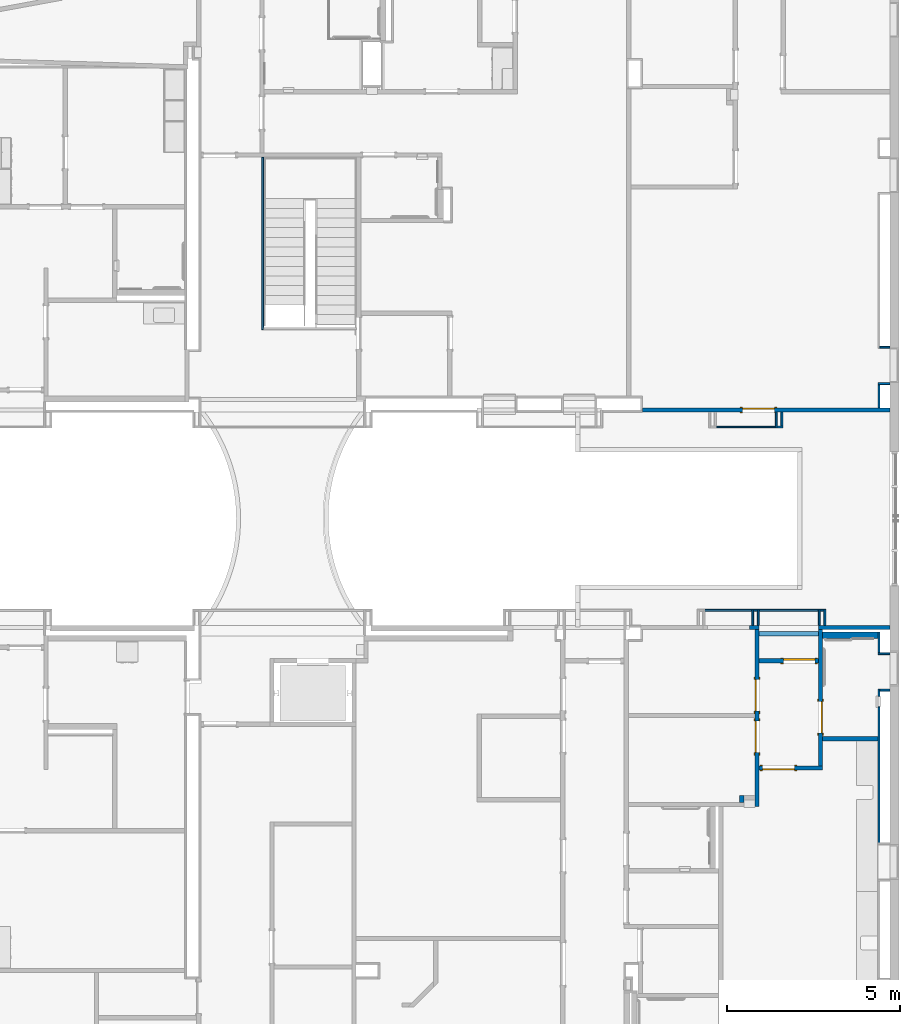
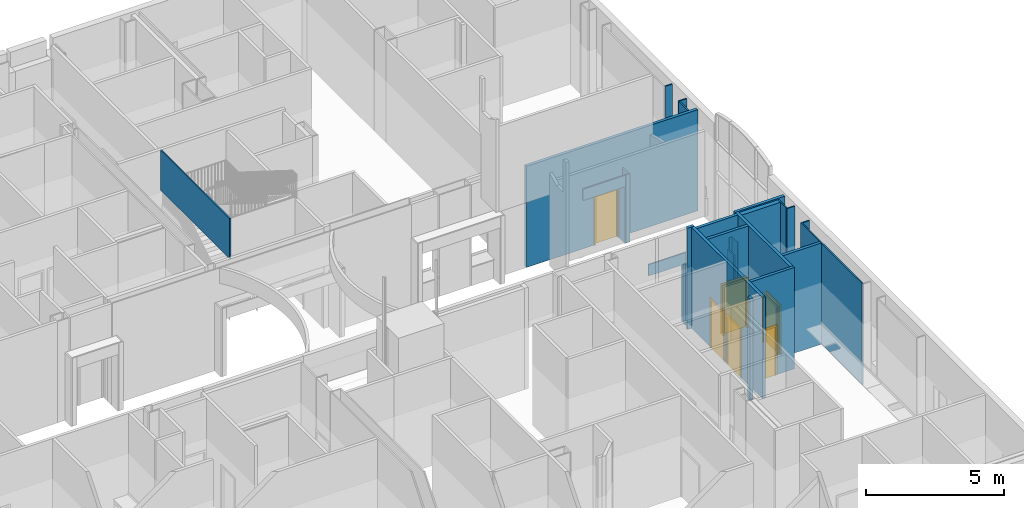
# One storey, part 38 of 82: 30 walls, 6 doors, 7 openings.
"""IFC2X3 building model written with IfcOpenShell, lengths in metres."""

from ifc_helpers import new_model, entity, si_unit, converted_unit, frame, frame_2d, origin, origin_2d_with_axis, place, context, project, spatial, polyline, rectangle, outline, extrude, source, transform, mapped, material, layer, layer_set, layer_usage, type_object, type_shapes, element, fill, save


model = new_model("IFC2X3")

# Units and contexts
model_context = context("Model", 3, precision=1e-09, world=origin())
plan_context = context("Plan", 3, precision=1e-09, world=origin())
ifc_project = project(units=[si_unit("LENGTHUNIT", "METRE"), si_unit("AREAUNIT", "SQUARE_METRE"), si_unit("VOLUMEUNIT", "CUBIC_METRE"), converted_unit("PLANEANGLEUNIT", "DEGREE", entity("IfcRatioMeasure", 0.01745329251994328), si_unit("PLANEANGLEUNIT", "RADIAN"), dimensions=[0, 0, 0, 0, 0, 0, 0]), si_unit("TIMEUNIT", "SECOND")], contexts=[model_context, plan_context])

# Site, building, storey
site_placement = place(None, origin())
site = spatial("IfcSite", under=ifc_project, at=site_placement, Name="Default", CompositionType="ELEMENT")
building_placement = place(site_placement, origin())
building = spatial("IfcBuilding", under=site, at=building_placement, CompositionType="ELEMENT")
storey_placement = place(building_placement, origin())
storey = spatial("IfcBuildingStorey", under=building, at=storey_placement, Name="First Floor", CompositionType="ELEMENT", Elevation=-3.531500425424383e-13)

# Wall, opening, door
ifc_material_1 = material(Name="Plasterboard")
ifc_layer_1 = layer(ifc_material_1, 0.016)
ifc_material_2 = material(Name="Metal - Stud Layer")
ifc_layer_2 = layer(ifc_material_2, 0.092)
ifc_layer_3 = layer(ifc_material_1, 0.016)
ifc_layer_set_1 = layer_set([ifc_layer_1, ifc_layer_2, ifc_layer_3], Name="Basic Wall:Interior - Partition (92mm Stud)")
ifc_layer_usage_1 = layer_usage(ifc_layer_set_1, "AXIS2", "NEGATIVE", 0.062)
wall_1_placement = place(storey_placement, frame((0.1129999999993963, 34.84199999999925, 0.0), z_axis=(0.0, 0.0, 1.0), x_axis=(-1.0, 0.0, 0.0)))
wall_1 = element("IfcWallStandardCase", 1, at=wall_1_placement, inside=storey, material=ifc_layer_usage_1, Name="Basic Wall:Interior - Partition (92mm Stud)", ObjectType="Basic Wall:Interior - Partition (92mm Stud)", context=model_context, shape_type="SweptSolid", body=[
    extrude(rectangle(XDim=7.162999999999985, YDim=0.1239999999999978, at=frame_2d((3.581499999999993, 0.0), x_axis=(-1.0, 0.0))), origin(), (0.0, 0.0, 1.0), 4.46800000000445),
])
opening_1_placement = place(wall_1_placement, frame((4.262999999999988, 0.06199999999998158, 0.0)))
opening_1 = element("IfcOpeningElement", 2, at=opening_1_placement, cuts=wall_1, Name="M_Single-Flush:0915 x 2134mm:0915 x 2134mm:1", ObjectType="Opening", context=model_context, shape_type="SweptSolid", body=[
    extrude(rectangle(XDim=0.9149999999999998, YDim=2.134, at=frame_2d((1.067, 0.4575), x_axis=(0.0, 1.0))), frame((0.0, 0.0, 0.0), z_axis=(0.0, -1.0, 0.0), x_axis=(0.0, 0.0, 1.0)), (0.0, 0.0, 1.0), 0.124),
])
door_style_1 = type_object("IfcDoorStyle", Name="0915 x 2134mm", ConstructionType="NOTDEFINED", OperationType="SINGLE_SWING_RIGHT", ParameterTakesPrecedence=False, Sizeable=False)
shared_shape_1 = source(origin(), model_context, "Body", "SweptSolid", [
    extrude(outline(polyline([(-0.5335, -1.123999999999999), (0.5334999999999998, -1.123999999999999), (0.5334999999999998, 1.086), (0.4574999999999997, 1.086), (0.4574999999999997, -1.048000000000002), (-0.4574999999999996, -1.048000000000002), (-0.4574999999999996, 1.086), (-0.5335, 1.086), (-0.5335, -1.123999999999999)])), frame((0.4575000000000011, 0.1239999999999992, 1.086), z_axis=(0.0, 1.0, 0.0), x_axis=(1.0, 0.0, 0.0)), (0.0, 0.0, 1.0), 0.02499999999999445),
    extrude(outline(polyline([(-1.123999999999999, -0.5334999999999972), (1.085999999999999, -0.5334999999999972), (1.085999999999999, -0.4575000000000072), (-1.048, -0.4575000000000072), (-1.048, 0.4575000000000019), (1.085999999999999, 0.4575000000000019), (1.085999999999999, 0.5335000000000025), (-1.123999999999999, 0.5335000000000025), (-1.123999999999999, -0.5334999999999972)])), frame((0.4575000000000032, -0.02500000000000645, 1.085999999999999), z_axis=(0.0, 1.0, 0.0), x_axis=(0.0, 0.0, -1.0)), (0.0, 0.0, 1.0), 0.02500000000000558),
    extrude(rectangle(XDim=0.051, YDim=0.9149999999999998, at=origin_2d_with_axis()), frame((0.4575000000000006, 0.09849999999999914, 0.0), z_axis=(0.0, 0.0, 1.0), x_axis=(0.0, 1.0, 0.0)), (0.0, 0.0, 1.0), 2.133999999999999),
])
type_shapes(door_style_1, [shared_shape_1])
door_1_placement = place(opening_1_placement, frame((0.0, 0.0, 0.0), z_axis=(0.0, 0.0, 1.0), x_axis=(-1.0, 0.0, 0.0)))
door_1 = element("IfcDoor", 3, at=door_1_placement, inside=storey, type_object=door_style_1, Name="M_Single-Flush:0915 x 2134mm:0915 x 2134mm", ObjectType="0915 x 2134mm", OverallHeight=2.134, OverallWidth=0.9149999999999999, context=model_context, shape_type="MappedRepresentation", body=[
    mapped(shared_shape_1, transform((0.0, 0.0, 0.0), scale=1.0)),
])
fill(opening_1, door_1)

# Wall, openings, doors
wall_2_placement = place(storey_placement, frame((-3.731975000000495, 28.48599999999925, 0.0), z_axis=(0.0, 0.0, 1.0), x_axis=(0.0, -1.0, 0.0)))
wall_2 = element("IfcWallStandardCase", 4, at=wall_2_placement, inside=storey, material=ifc_layer_usage_1, Name="Basic Wall:Interior - Partition (92mm Stud)", ObjectType="Basic Wall:Interior - Partition (92mm Stud)", context=model_context, shape_type="SweptSolid", body=[
    extrude(rectangle(XDim=5.125999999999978, YDim=0.124, at=frame_2d((2.562999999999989, 0.0), x_axis=(-1.0, 0.0))), origin(), (0.0, 0.0, 1.0), 4.468000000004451),
])
opening_2_placement = place(wall_2_placement, frame((2.361999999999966, 0.06199999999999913, 0.0)))
opening_2 = element("IfcOpeningElement", 5, at=opening_2_placement, cuts=wall_2, Name="M_Single-Flush:0915 x 2134mm:0915 x 2134mm:1", ObjectType="Opening", context=model_context, shape_type="SweptSolid", body=[
    extrude(rectangle(XDim=0.9149999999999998, YDim=2.134, at=frame_2d((1.067, 0.4575000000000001), x_axis=(0.0, -1.0))), frame((0.0, 0.0, 0.0), z_axis=(0.0, -1.0, 0.0), x_axis=(0.0, 0.0, 1.0)), (0.0, 0.0, 1.0), 0.124),
])
opening_3_placement = place(wall_2_placement, frame((3.560999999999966, 0.06199999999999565, 0.0)))
opening_3 = element("IfcOpeningElement", 6, at=opening_3_placement, cuts=wall_2, Name="M_Single-Flush:0915 x 2134mm:0915 x 2134mm:1", ObjectType="Opening", context=model_context, shape_type="SweptSolid", body=[
    extrude(rectangle(XDim=0.9149999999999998, YDim=2.134, at=frame_2d((1.067, 0.4575), x_axis=(0.0, 1.0))), frame((0.0, 0.0, 0.0), z_axis=(0.0, -1.0, 0.0), x_axis=(0.0, 0.0, 1.0)), (0.0, 0.0, 1.0), 0.124),
])
door_2_placement = place(opening_3_placement, frame((0.0, 0.0, 0.0), z_axis=(0.0, 0.0, 1.0), x_axis=(-1.0, 0.0, 0.0)))
door_2 = element("IfcDoor", 7, at=door_2_placement, inside=storey, type_object=door_style_1, Name="M_Single-Flush:0915 x 2134mm:0915 x 2134mm", ObjectType="0915 x 2134mm", OverallHeight=2.134, OverallWidth=0.9149999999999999, context=model_context, shape_type="MappedRepresentation", body=[
    mapped(shared_shape_1, transform((0.0, 0.0, 0.0), scale=1.0)),
])
fill(opening_3, door_2)
door_style_2 = type_object("IfcDoorStyle", Name="0915 x 2134mm", ConstructionType="NOTDEFINED", OperationType="SINGLE_SWING_LEFT", ParameterTakesPrecedence=False, Sizeable=False)
shared_shape_2 = source(origin(), model_context, "Body", "SweptSolid", [
    extrude(outline(polyline([(-0.5335, -1.123999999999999), (0.5334999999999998, -1.123999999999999), (0.5334999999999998, 1.086), (0.4574999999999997, 1.086), (0.4574999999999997, -1.048000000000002), (-0.4574999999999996, -1.048000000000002), (-0.4574999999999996, 1.086), (-0.5335, 1.086), (-0.5335, -1.123999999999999)])), frame((0.4575000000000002, 0.1489999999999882, 1.086), z_axis=(0.0, -1.0, 0.0), x_axis=(-1.0, 0.0, 0.0)), (0.0, 0.0, 1.0), 0.02499999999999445),
    extrude(outline(polyline([(-1.123999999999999, -0.5334999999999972), (1.085999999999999, -0.5334999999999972), (1.085999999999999, -0.4575000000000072), (-1.048, -0.4575000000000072), (-1.048, 0.4575000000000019), (1.085999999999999, 0.4575000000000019), (1.085999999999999, 0.5335000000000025), (-1.123999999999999, 0.5335000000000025), (-1.123999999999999, -0.5334999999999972)])), frame((0.4574999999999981, 0.0, 1.085999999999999), z_axis=(0.0, -1.0, 0.0), x_axis=(0.0, 0.0, -1.0)), (0.0, 0.0, 1.0), 0.02500000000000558),
    extrude(rectangle(XDim=0.9149999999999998, YDim=0.051, at=origin_2d_with_axis()), frame((0.4575000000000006, 0.09849999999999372, 0.0)), (0.0, 0.0, 1.0), 2.133999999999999),
])
type_shapes(door_style_2, [shared_shape_2])
door_3_placement = place(opening_2_placement, frame((0.0, 0.0, 0.0), z_axis=(0.0, 0.0, 1.0), x_axis=(-1.0, 0.0, 0.0)))
door_3 = element("IfcDoor", 8, at=door_3_placement, inside=storey, type_object=door_style_2, Name="M_Single-Flush:0915 x 2134mm:0915 x 2134mm", ObjectType="0915 x 2134mm", OverallHeight=2.134, OverallWidth=0.9149999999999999, context=model_context, shape_type="MappedRepresentation", body=[
    mapped(shared_shape_2, transform((0.0, 0.0, 0.0), scale=1.0)),
])
fill(opening_2, door_3)

# Wall, opening, door
wall_3_placement = place(storey_placement, frame((-1.89797500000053, 24.53999999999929, 0.0), z_axis=(0.0, 0.0, 1.0), x_axis=(0.0, 1.0, 0.0)))
wall_3 = element("IfcWallStandardCase", 9, at=wall_3_placement, inside=storey, material=ifc_layer_usage_1, Name="Basic Wall:Interior - Partition (92mm Stud)", ObjectType="Basic Wall:Interior - Partition (92mm Stud)", context=model_context, shape_type="SweptSolid", body=[
    extrude(rectangle(XDim=3.945999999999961, YDim=0.124, at=frame_2d((1.97299999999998, 0.0), x_axis=(-1.0, 0.0))), origin(), (0.0, 0.0, 1.0), 4.46800000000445),
])
opening_4_placement = place(wall_3_placement, frame((1.864999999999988, 0.06199999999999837, 0.0)))
opening_4 = element("IfcOpeningElement", 10, at=opening_4_placement, cuts=wall_3, Name="M_Single-Flush:0915 x 2134mm:0915 x 2134mm:1", ObjectType="Opening", context=model_context, shape_type="SweptSolid", body=[
    extrude(rectangle(XDim=0.9149999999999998, YDim=2.134, at=frame_2d((1.067, 0.4575), x_axis=(0.0, 1.0))), frame((0.0, 0.0, 0.0), z_axis=(0.0, -1.0, 0.0), x_axis=(0.0, 0.0, 1.0)), (0.0, 0.0, 1.0), 0.124),
])
door_4_placement = place(opening_4_placement, frame((0.0, 0.0, 0.0), z_axis=(0.0, 0.0, 1.0), x_axis=(-1.0, 0.0, 0.0)))
door_4 = element("IfcDoor", 11, at=door_4_placement, inside=storey, type_object=door_style_1, Name="M_Single-Flush:0915 x 2134mm:0915 x 2134mm", ObjectType="0915 x 2134mm", OverallHeight=2.134, OverallWidth=0.9149999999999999, context=model_context, shape_type="MappedRepresentation", body=[
    mapped(shared_shape_1, transform((0.0, 0.0, 0.0), scale=1.0)),
])
fill(opening_4, door_4)

# Walls
ifc_layer_4 = layer(ifc_material_2, 0.038)
ifc_layer_5 = layer(ifc_material_1, 0.016)
ifc_layer_set_2 = layer_set([ifc_layer_4, ifc_layer_5], Name="Basic Wall:Interior - Furring (38 mm Stud)")
ifc_layer_usage_2 = layer_usage(ifc_layer_set_2, "AXIS2", "POSITIVE", -0.027)
wall_4_placement = place(storey_placement, frame((-1.932975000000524, 28.60999999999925, 0.0), z_axis=(0.0, 0.0, 1.0), x_axis=(0.0, 1.0, 0.0)))
element("IfcWallStandardCase", 12, at=wall_4_placement, inside=storey, material=ifc_layer_usage_2, Name="Basic Wall:Interior - Furring (38 mm Stud)", ObjectType="Basic Wall:Interior - Furring (38 mm Stud)", context=model_context, shape_type="SweptSolid", body=[
    extrude(rectangle(XDim=0.4599999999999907, YDim=0.05400000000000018, at=frame_2d((0.2299999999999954, 0.0), x_axis=(-1.0, 0.0))), origin(), (0.0, 0.0, 1.0), 2.5),
])
wall_5_placement = place(storey_placement, frame((-3.956852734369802, 28.54799999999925, 0.0)))
element("IfcWallStandardCase", 13, at=wall_5_placement, inside=storey, material=ifc_layer_usage_1, Name="Basic Wall:Interior - Partition (92mm Stud)", ObjectType="Basic Wall:Interior - Partition (92mm Stud)", context=model_context, shape_type="SweptSolid", body=[
    extrude(rectangle(XDim=0.2868777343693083, YDim=0.1239999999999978, at=frame_2d((0.1434388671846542, 0.0), x_axis=(-1.0, 0.0))), origin(), (0.0, 0.0, 1.0), 4.468000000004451),
])
wall_6_placement = place(storey_placement, frame((-1.959975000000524, 28.54799999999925, 0.0)))
element("IfcWallStandardCase", 14, at=wall_6_placement, inside=storey, material=ifc_layer_usage_1, Name="Basic Wall:Interior - Partition (92mm Stud)", ObjectType="Basic Wall:Interior - Partition (92mm Stud)", context=model_context, shape_type="SweptSolid", body=[
    extrude(rectangle(XDim=2.072974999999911, YDim=0.1239999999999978, at=frame_2d((1.036487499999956, 0.0), x_axis=(-1.0, 0.0))), origin(), (0.0, 0.0, 1.0), 4.46800000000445),
])
wall_7_placement = place(storey_placement, frame((-5.270722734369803, 29.04299999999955, 2.5)))
element("IfcWallStandardCase", 15, at=wall_7_placement, inside=storey, material=ifc_layer_usage_2, Name="Basic Wall:Interior - Furring (38 mm Stud)", ObjectType="Basic Wall:Interior - Furring (38 mm Stud)", context=model_context, shape_type="SweptSolid", body=[
    extrude(rectangle(XDim=3.337747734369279, YDim=0.05399999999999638, at=frame_2d((1.66887386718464, 0.0), x_axis=(-1.0, 0.0))), origin(), (0.0, 0.0, 1.0), 0.5),
])
wall_8_placement = place(storey_placement, frame((-3.696975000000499, 29.06999999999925, 0.0), z_axis=(0.0, 0.0, 1.0), x_axis=(0.0, -1.0, 0.0)))
element("IfcWallStandardCase", 16, at=wall_8_placement, inside=storey, material=ifc_layer_usage_2, Name="Basic Wall:Interior - Furring (38 mm Stud)", ObjectType="Basic Wall:Interior - Furring (38 mm Stud)", context=model_context, shape_type="SweptSolid", body=[
    extrude(rectangle(XDim=0.459999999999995, YDim=0.05399999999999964, at=frame_2d((0.2299999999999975, 0.0), x_axis=(-1.0, 0.0))), origin(), (0.0, 0.0, 1.0), 2.5),
])

# Wall, opening
wall_9_placement = place(storey_placement, frame((-0.203000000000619, 22.31399999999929, 0.0), z_axis=(0.0, 0.0, 1.0), x_axis=(0.0, 1.0, 0.0)))
wall_9 = element("IfcWallStandardCase", 17, at=wall_9_placement, inside=storey, material=ifc_layer_usage_2, Name="Basic Wall:Interior - Furring (38 mm Stud)", ObjectType="Basic Wall:Interior - Furring (38 mm Stud)", context=model_context, shape_type="SweptSolid", body=[
    extrude(rectangle(XDim=4.446000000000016, YDim=0.05399999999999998, at=frame_2d((2.223000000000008, 0.0), x_axis=(-1.0, 0.0))), origin(), (0.0, 0.0, 1.0), 4.46800000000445),
])
opening_5_placement = place(wall_9_placement, origin())
element("IfcOpeningElement", 18, at=opening_5_placement, cuts=wall_9, ObjectType="Opening", context=model_context, shape_type="SweptSolid", body=[
    extrude(rectangle(XDim=1.362075, YDim=0.2984500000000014, at=frame_2d((0.0, 0.0), x_axis=(0.0, 1.0))), frame((4.086900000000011, -0.06190000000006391, 1.041399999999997), z_axis=(0.0, 1.0, 0.0), x_axis=(1.0, 0.0, 0.0)), (0.0, 0.0, 1.0), 0.1524000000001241),
])

# Wall, opening, door
wall_10_placement = place(storey_placement, frame((-3.669975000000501, 24.4779999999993, 0.0)))
wall_10 = element("IfcWallStandardCase", 19, at=wall_10_placement, inside=storey, material=ifc_layer_usage_1, Name="Basic Wall:Interior - Partition (92mm Stud)", ObjectType="Basic Wall:Interior - Partition (92mm Stud)", context=model_context, shape_type="SweptSolid", body=[
    extrude(rectangle(XDim=1.833999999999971, YDim=0.1239999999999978, at=frame_2d((0.9169999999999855, 0.0), x_axis=(-1.0, 0.0))), origin(), (0.0, 0.0, 1.0), 4.46800000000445),
])
opening_6_placement = place(wall_10_placement, frame((1.015000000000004, 0.06200000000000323, 0.0)))
opening_6 = element("IfcOpeningElement", 20, at=opening_6_placement, cuts=wall_10, Name="M_Single-Flush:0915 x 2134mm:0915 x 2134mm:1", ObjectType="Opening", context=model_context, shape_type="SweptSolid", body=[
    extrude(rectangle(XDim=0.9149999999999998, YDim=2.134, at=frame_2d((1.067, 0.4574999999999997), x_axis=(0.0, 1.0))), frame((0.0, 0.0, 0.0), z_axis=(0.0, -1.0, 0.0), x_axis=(0.0, 0.0, 1.0)), (0.0, 0.0, 1.0), 0.124),
])
door_5_placement = place(opening_6_placement, frame((0.0, 0.0, 0.0), z_axis=(0.0, 0.0, 1.0), x_axis=(-1.0, 0.0, 0.0)))
door_5 = element("IfcDoor", 21, at=door_5_placement, inside=storey, type_object=door_style_1, Name="M_Single-Flush:0915 x 2134mm:0915 x 2134mm", ObjectType="0915 x 2134mm", OverallHeight=2.134, OverallWidth=0.9149999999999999, context=model_context, shape_type="MappedRepresentation", body=[
    mapped(shared_shape_1, transform((0.0, 0.0, 0.0), scale=1.0)),
])
fill(opening_6, door_5)

wall_11_placement = place(storey_placement, frame((-1.959975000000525, 27.58199999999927, 0.0), z_axis=(0.0, 0.0, 1.0), x_axis=(-1.0, 0.0, 0.0)))
wall_11 = element("IfcWallStandardCase", 22, at=wall_11_placement, inside=storey, material=ifc_layer_usage_1, Name="Basic Wall:Interior - Partition (92mm Stud)", ObjectType="Basic Wall:Interior - Partition (92mm Stud)", context=model_context, shape_type="SweptSolid", body=[
    extrude(rectangle(XDim=1.709999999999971, YDim=0.1239999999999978, at=frame_2d((0.8549999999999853, 0.0), x_axis=(-1.0, 0.0))), origin(), (0.0, 0.0, 1.0), 4.46800000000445),
])
opening_7_placement = place(wall_11_placement, frame((1.015000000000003, 0.0619999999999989, 0.0)))
opening_7 = element("IfcOpeningElement", 23, at=opening_7_placement, cuts=wall_11, Name="M_Single-Flush:0915 x 2134mm:0915 x 2134mm:1", ObjectType="Opening", context=model_context, shape_type="SweptSolid", body=[
    extrude(rectangle(XDim=0.9149999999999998, YDim=2.134, at=frame_2d((1.067, 0.4574999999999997), x_axis=(0.0, 1.0))), frame((0.0, 0.0, 0.0), z_axis=(0.0, -1.0, 0.0), x_axis=(0.0, 0.0, 1.0)), (0.0, 0.0, 1.0), 0.124),
])
door_6_placement = place(opening_7_placement, frame((0.0, 0.0, 0.0), z_axis=(0.0, 0.0, 1.0), x_axis=(-1.0, 0.0, 0.0)))
door_6 = element("IfcDoor", 24, at=door_6_placement, inside=storey, type_object=door_style_1, Name="M_Single-Flush:0915 x 2134mm:0915 x 2134mm", ObjectType="0915 x 2134mm", OverallHeight=2.134, OverallWidth=0.9149999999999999, context=model_context, shape_type="MappedRepresentation", body=[
    mapped(shared_shape_1, transform((0.0, 0.0, 0.0), scale=1.0)),
])
fill(opening_7, door_6)

# Walls
ifc_layer_usage_3 = layer_usage(ifc_layer_set_2, "AXIS2", "NEGATIVE", 0.027)
wall_12_placement = place(storey_placement, frame((-4.940500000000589, 34.34699999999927, 2.5)))
element("IfcWallStandardCase", 25, at=wall_12_placement, inside=storey, material=ifc_layer_usage_3, Name="Basic Wall:Interior - Furring (38 mm Stud)", ObjectType="Basic Wall:Interior - Furring (38 mm Stud)", context=model_context, shape_type="SweptSolid", body=[
    extrude(rectangle(XDim=1.76400000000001, YDim=0.05399999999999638, at=frame_2d((0.882000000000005, 0.0), x_axis=(-1.0, 0.0))), origin(), (0.0, 0.0, 1.0), 0.5),
])
wall_13_placement = place(storey_placement, frame((-1.835975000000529, 25.32799999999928, 0.0)))
element("IfcWallStandardCase", 26, at=wall_13_placement, inside=storey, material=ifc_layer_usage_1, Name="Basic Wall:Interior - Partition (92mm Stud)", ObjectType="Basic Wall:Interior - Partition (92mm Stud)", context=model_context, shape_type="SweptSolid", body=[
    extrude(rectangle(XDim=1.605974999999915, YDim=0.1239999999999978, at=frame_2d((0.8029874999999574, 0.0), x_axis=(-1.0, 0.0))), origin(), (0.0, 0.0, 1.0), 4.46800000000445),
])
wall_14_placement = place(storey_placement, frame((-1.932975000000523, 29.04299999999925, 0.0)))
element("IfcWallStandardCase", 27, at=wall_14_placement, inside=storey, material=ifc_layer_usage_2, Name="Basic Wall:Interior - Furring (38 mm Stud)", ObjectType="Basic Wall:Interior - Furring (38 mm Stud)", context=model_context, shape_type="SweptSolid", body=[
    extrude(rectangle(XDim=0.1069999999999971, YDim=0.05400000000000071, at=frame_2d((0.08049999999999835, 0.0), x_axis=(-1.0, 0.0))), origin(), (0.0, 0.0, 1.0), 3.0),
])
wall_15_placement = place(storey_placement, frame((-3.176500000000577, 34.34699999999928, 0.0)))
element("IfcWallStandardCase", 28, at=wall_15_placement, inside=storey, material=ifc_layer_usage_3, Name="Basic Wall:Interior - Furring (38 mm Stud)", ObjectType="Basic Wall:Interior - Furring (38 mm Stud)", context=model_context, shape_type="SweptSolid", body=[
    extrude(rectangle(XDim=0.1610000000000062, YDim=0.05400000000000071, at=frame_2d((0.1075000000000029, 0.0), x_axis=(-1.0, 0.0))), origin(), (0.0, 0.0, 1.0), 3.0),
])
wall_16_placement = place(storey_placement, frame((-3.176500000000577, 34.77999999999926, 0.0), z_axis=(0.0, 0.0, 1.0), x_axis=(0.0, -1.0, 0.0)))
element("IfcWallStandardCase", 29, at=wall_16_placement, inside=storey, material=ifc_layer_usage_3, Name="Basic Wall:Interior - Furring (38 mm Stud)", ObjectType="Basic Wall:Interior - Furring (38 mm Stud)", context=model_context, shape_type="SweptSolid", body=[
    extrude(rectangle(XDim=0.4599999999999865, YDim=0.05399999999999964, at=frame_2d((0.2299999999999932, 0.0), x_axis=(-1.0, 0.0))), origin(), (0.0, 0.0, 1.0), 2.5),
])
wall_17_placement = place(storey_placement, frame((-0.1760000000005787, 36.65691185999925, 0.0)))
element("IfcWallStandardCase", 30, at=wall_17_placement, inside=storey, material=ifc_layer_usage_3, Name="Basic Wall:Interior - Furring (38 mm Stud)", ObjectType="Basic Wall:Interior - Furring (38 mm Stud)", context=model_context, shape_type="SweptSolid", body=[
    extrude(rectangle(XDim=0.2889999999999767, YDim=0.05399999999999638, at=frame_2d((0.1444999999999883, 0.0), x_axis=(-1.0, 0.0))), origin(), (0.0, 0.0, 1.0), 4.46800000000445),
])
wall_18_placement = place(storey_placement, frame((-0.1760000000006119, 26.73299999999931, 0.0)))
element("IfcWallStandardCase", 31, at=wall_18_placement, inside=storey, material=ifc_layer_usage_2, Name="Basic Wall:Interior - Furring (38 mm Stud)", ObjectType="Basic Wall:Interior - Furring (38 mm Stud)", context=model_context, shape_type="SweptSolid", body=[
    extrude(rectangle(XDim=0.288999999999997, YDim=0.05399999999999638, at=frame_2d((0.1444999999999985, 0.0), x_axis=(-1.0, 0.0))), origin(), (0.0, 0.0, 1.0), 4.46800000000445),
])
ifc_layer_6 = layer(ifc_material_1, 0.016)
ifc_layer_7 = layer(ifc_material_2, 0.152)
ifc_layer_8 = layer(ifc_material_1, 0.016)
ifc_layer_set_3 = layer_set([ifc_layer_6, ifc_layer_7, ifc_layer_8], Name="Basic Wall:Interior - Plumbing (152mm Stud)")
ifc_layer_usage_4 = layer_usage(ifc_layer_set_3, "AXIS2", "NEGATIVE", 0.092)
wall_19_placement = place(storey_placement, frame((-0.2300000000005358, 28.32199999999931, 0.0), z_axis=(0.0, 0.0, 1.0), x_axis=(-1.0, 0.0, 0.0)))
element("IfcWallStandardCase", 32, at=wall_19_placement, inside=storey, material=ifc_layer_usage_4, Name="Basic Wall:Interior - Plumbing (152mm Stud)", ObjectType="Basic Wall:Interior - Plumbing (152mm Stud)", context=model_context, shape_type="SweptSolid", body=[
    extrude(rectangle(XDim=1.605974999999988, YDim=0.1840000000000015, at=frame_2d((0.8029874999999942, 0.0), x_axis=(-1.0, 0.0))), origin(), (0.0, 0.0, 1.0), 4.46800000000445),
])
wall_20_placement = place(storey_placement, frame((-4.171975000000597, 23.68149999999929, 0.0), z_axis=(0.0, 0.0, 1.0), x_axis=(0.0, -1.0, 0.0)))
element("IfcWallStandardCase", 33, at=wall_20_placement, inside=storey, material=ifc_layer_usage_1, Name="Basic Wall:Interior - Partition (92mm Stud)", ObjectType="Basic Wall:Interior - Partition (92mm Stud)", context=model_context, shape_type="SweptSolid", body=[
    extrude(rectangle(XDim=0.1975000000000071, YDim=0.124, at=frame_2d((0.09875000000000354, 0.0), x_axis=(-1.0, 0.0))), origin(), (0.0, 0.0, 1.0), 4.46800000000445),
])
wall_21_placement = place(storey_placement, frame((-3.015500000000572, 34.37399999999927, 0.0), z_axis=(0.0, 0.0, 1.0), x_axis=(0.0, 1.0, 0.0)))
element("IfcWallStandardCase", 34, at=wall_21_placement, inside=storey, material=ifc_layer_usage_3, Name="Basic Wall:Interior - Furring (38 mm Stud)", ObjectType="Basic Wall:Interior - Furring (38 mm Stud)", context=model_context, shape_type="SweptSolid", body=[
    extrude(rectangle(XDim=0.4059999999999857, YDim=0.05399999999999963, at=frame_2d((0.2029999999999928, 0.0), x_axis=(-1.0, 0.0))), origin(), (0.0, 0.0, 1.0), 3.0),
])
wall_22_placement = place(storey_placement, frame((0.1129999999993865, 27.78699999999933, 0.0), z_axis=(0.0, 0.0, 1.0), x_axis=(-1.0, 0.0, 0.0)))
element("IfcWallStandardCase", 35, at=wall_22_placement, inside=storey, material=ifc_layer_usage_2, Name="Basic Wall:Interior - Furring (38 mm Stud)", ObjectType="Basic Wall:Interior - Furring (38 mm Stud)", context=model_context, shape_type="SweptSolid", body=[
    extrude(rectangle(XDim=0.3429999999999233, YDim=0.05399999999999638, at=frame_2d((0.1714999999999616, 0.0), x_axis=(-1.0, 0.0))), origin(), (0.0, 0.0, 1.0), 4.46800000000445),
])
wall_23_placement = place(storey_placement, frame((0.1129999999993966, 35.60291185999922, 0.0), z_axis=(0.0, 0.0, 1.0), x_axis=(-1.0, 0.0, 0.0)))
element("IfcWallStandardCase", 36, at=wall_23_placement, inside=storey, material=ifc_layer_usage_3, Name="Basic Wall:Interior - Furring (38 mm Stud)", ObjectType="Basic Wall:Interior - Furring (38 mm Stud)", context=model_context, shape_type="SweptSolid", body=[
    extrude(rectangle(XDim=0.3429999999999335, YDim=0.05399999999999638, at=frame_2d((0.1714999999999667, 0.0), x_axis=(-1.0, 0.0))), origin(), (0.0, 0.0, 1.0), 4.46800000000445),
])
wall_24_placement = place(storey_placement, frame((-0.2030000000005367, 27.81399999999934, 0.0), z_axis=(0.0, 0.0, 1.0), x_axis=(0.0, 1.0, 0.0)))
element("IfcWallStandardCase", 37, at=wall_24_placement, inside=storey, material=ifc_layer_usage_2, Name="Basic Wall:Interior - Furring (38 mm Stud)", ObjectType="Basic Wall:Interior - Furring (38 mm Stud)", context=model_context, shape_type="SweptSolid", body=[
    extrude(rectangle(XDim=0.5999999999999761, YDim=0.05399999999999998, at=frame_2d((0.2999999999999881, 0.0), x_axis=(-1.0, 0.0))), origin(), (0.0, 0.0, 1.0), 4.46800000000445),
])
wall_25_placement = place(storey_placement, frame((-3.830975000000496, 29.04299999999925, 0.0)))
element("IfcWallStandardCase", 38, at=wall_25_placement, inside=storey, material=ifc_layer_usage_2, Name="Basic Wall:Interior - Furring (38 mm Stud)", ObjectType="Basic Wall:Interior - Furring (38 mm Stud)", context=model_context, shape_type="SweptSolid", body=[
    extrude(rectangle(XDim=0.1069999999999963, YDim=0.05399999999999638, at=frame_2d((0.05349999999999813, 0.0), x_axis=(-1.0, 0.0))), origin(), (0.0, 0.0, 1.0), 2.5),
])
wall_26_placement = place(storey_placement, frame((-3.857975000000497, 28.60999999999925, 0.0), z_axis=(0.0, 0.0, 1.0), x_axis=(0.0, 1.0, 0.0)))
element("IfcWallStandardCase", 39, at=wall_26_placement, inside=storey, material=ifc_layer_usage_2, Name="Basic Wall:Interior - Furring (38 mm Stud)", ObjectType="Basic Wall:Interior - Furring (38 mm Stud)", context=model_context, shape_type="SweptSolid", body=[
    extrude(rectangle(XDim=0.459999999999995, YDim=0.05399999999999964, at=frame_2d((0.2299999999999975, 0.0), x_axis=(-1.0, 0.0))), origin(), (0.0, 0.0, 1.0), 2.5),
])
wall_27_placement = place(storey_placement, frame((-1.771975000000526, 29.06999999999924, 0.0), z_axis=(0.0, 0.0, 1.0), x_axis=(0.0, -1.0, 0.0)))
element("IfcWallStandardCase", 40, at=wall_27_placement, inside=storey, material=ifc_layer_usage_2, Name="Basic Wall:Interior - Furring (38 mm Stud)", ObjectType="Basic Wall:Interior - Furring (38 mm Stud)", context=model_context, shape_type="SweptSolid", body=[
    extrude(rectangle(XDim=0.4599999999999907, YDim=0.05400000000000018, at=frame_2d((0.2299999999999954, 0.0), x_axis=(-1.0, 0.0))), origin(), (0.0, 0.0, 1.0), 3.0),
])
wall_28_placement = place(storey_placement, frame((-0.2030000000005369, 35.57591185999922, 0.0), z_axis=(0.0, 0.0, 1.0), x_axis=(0.0, -1.0, 0.0)))
element("IfcWallStandardCase", 41, at=wall_28_placement, inside=storey, material=ifc_layer_usage_3, Name="Basic Wall:Interior - Furring (38 mm Stud)", ObjectType="Basic Wall:Interior - Furring (38 mm Stud)", context=model_context, shape_type="SweptSolid", body=[
    extrude(rectangle(XDim=0.6719118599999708, YDim=0.05400000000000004, at=frame_2d((0.3359559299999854, 0.0), x_axis=(-1.0, 0.0))), origin(), (0.0, 0.0, 1.0), 4.46800000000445),
])
wall_29_placement = place(storey_placement, frame((-1.959975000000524, 28.36549999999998, 2.4), z_axis=(0.0, 0.0, 1.0), x_axis=(-1.0, 0.0, 0.0)))
element("IfcWallStandardCase", 42, at=wall_29_placement, inside=storey, material=ifc_layer_usage_1, Name="Basic Wall:Interior - Partition (92mm Stud)", ObjectType="Basic Wall:Interior - Partition (92mm Stud)", context=model_context, shape_type="SweptSolid", body=[
    extrude(rectangle(XDim=1.709999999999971, YDim=0.1239999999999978, at=frame_2d((0.8549999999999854, 0.0), x_axis=(-1.0, 0.0))), origin(), (0.0, 0.0, 1.0), 2.06800000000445),
])
wall_30_placement = place(storey_placement, frame((-18.03200000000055, 42.15600069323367, 2.8), z_axis=(0.0, 0.0, 1.0), x_axis=(0.0, -1.0, 0.0)))
element("IfcWallStandardCase", 43, at=wall_30_placement, inside=storey, material=ifc_layer_usage_2, Name="Basic Wall:Interior - Furring (38 mm Stud)", ObjectType="Basic Wall:Interior - Furring (38 mm Stud)", context=model_context, shape_type="SweptSolid", body=[
    extrude(rectangle(XDim=4.992972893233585, YDim=0.05400000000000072, at=frame_2d((2.496486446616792, 0.0), x_axis=(-1.0, 0.0))), origin(), (0.0, 0.0, 1.0), 1.770000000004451),
])

save(model, "model.ifc")
